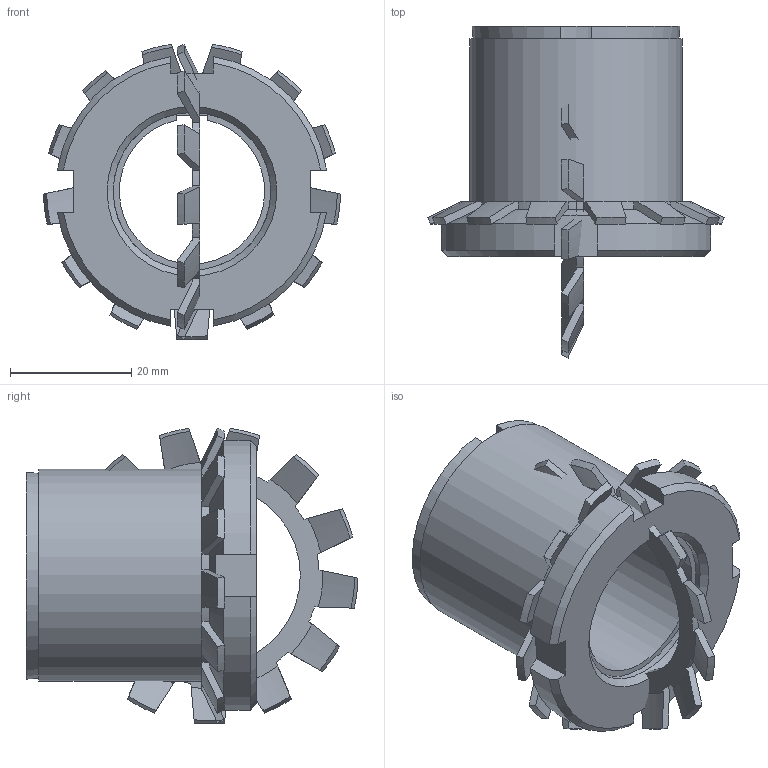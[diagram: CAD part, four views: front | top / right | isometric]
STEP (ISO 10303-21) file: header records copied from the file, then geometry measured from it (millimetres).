
FILE_DESCRIPTION( ( 'Unknown' ), '1' );
FILE_NAME( 'C:/Dokumente und Einstellungen/Sven/Desktop/homepage/cad - homepage/KBS55/KBS 55 - 24 x 35.stp', 'Unknown', ( 'Unknown' ), ( 'Unknown' ), 'XStep 1.0', 'Unknown', ' ' );
FILE_SCHEMA( ( 'automotive_design' ) );
Length unit declared in the file: millimetre
Products named in the file (3): Assem1; KBS 55 - 24 x 35; 08570066_locking_plate_din_5406_mb_6_2_14a
Bounding box: 48.99 x 54.75 x 48.75 mm (x, y, z)
Volume: 46001.1 mm3; surface area: 23093.1 mm2
Topology: 4 solids, 4 shells, 240 faces, 688 edges, 456 vertices
Faces by surface type: plane 104, cone 94, cylinder 42
Full cylindrical faces by diameter (mm): 26 x2, 35 x2
Entity records: 4268 total; most frequent: CARTESIAN_POINT 879, ORIENTED_EDGE 676, DIRECTION 640, EDGE_CURVE 338, AXIS2_PLACEMENT_3D 253, VERTEX_POINT 226, LINE 134, VECTOR 134
